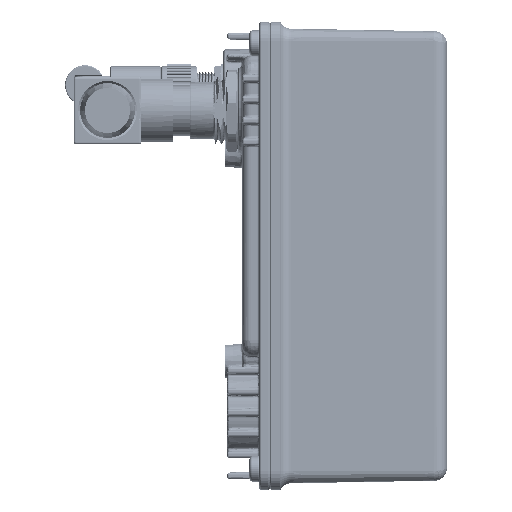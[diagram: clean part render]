
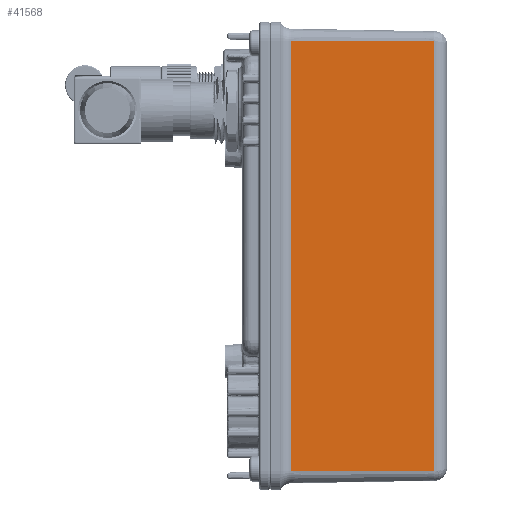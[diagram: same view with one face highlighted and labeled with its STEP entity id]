
A CAD part, front view. The second image highlights one B-rep face of the part: STEP entity #41568.
In plain terms, the highlighted planar face has unit normal (0.018, -1, 0).
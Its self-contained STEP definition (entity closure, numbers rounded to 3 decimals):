
#4248=FACE_OUTER_BOUND('',#6724,.T.);
#6724=EDGE_LOOP('',(#28513,#28514,#28515,#28516));
#8765=LINE('',#59718,#10817);
#9351=LINE('',#62758,#11403);
#9371=LINE('',#63162,#11423);
#9380=LINE('',#63182,#11432);
#10817=VECTOR('',#48221,10.);
#11403=VECTOR('',#51289,3.);
#11423=VECTOR('',#51433,10.);
#11432=VECTOR('',#51464,10.);
#15467=VERTEX_POINT('',#59667);
#15468=VERTEX_POINT('',#59717);
#16387=VERTEX_POINT('',#62745);
#16390=VERTEX_POINT('',#62756);
#19352=EDGE_CURVE('',#15467,#15468,#8765,.T.);
#20736=EDGE_CURVE('',#16390,#16387,#9351,.T.);
#20795=EDGE_CURVE('',#16387,#15467,#9371,.T.);
#20804=EDGE_CURVE('',#16390,#15468,#9380,.T.);
#28513=ORIENTED_EDGE('',*,*,#20736,.F.);
#28514=ORIENTED_EDGE('',*,*,#20804,.T.);
#28515=ORIENTED_EDGE('',*,*,#19352,.F.);
#28516=ORIENTED_EDGE('',*,*,#20795,.F.);
#38186=PLANE('',#44870);
#41568=ADVANCED_FACE('',(#4248),#38186,.T.);
#44870=AXIS2_PLACEMENT_3D('',#63181,#51462,#51463);
#48221=DIRECTION('',(0.,0.,-1.));
#51289=DIRECTION('',(0.,0.,1.));
#51433=DIRECTION('',(1.,0.017,0.));
#51462=DIRECTION('center_axis',(0.017,-1.,0.));
#51463=DIRECTION('ref_axis',(0.,0.,-1.));
#51464=DIRECTION('',(1.,0.017,0.));
#59667=CARTESIAN_POINT('',(16.552,-35.318,40.5));
#59717=CARTESIAN_POINT('',(16.552,-35.318,-61.5));
#59718=CARTESIAN_POINT('',(16.552,-35.318,-36.));
#62745=CARTESIAN_POINT('',(-17.405,-35.911,40.5));
#62756=CARTESIAN_POINT('',(-17.405,-35.911,-61.5));
#62758=CARTESIAN_POINT('',(-17.405,-35.911,40.5));
#63162=CARTESIAN_POINT('',(-22.5,-36.,40.5));
#63181=CARTESIAN_POINT('Origin',(-22.5,-36.,-61.5));
#63182=CARTESIAN_POINT('',(-22.5,-36.,-61.5));
